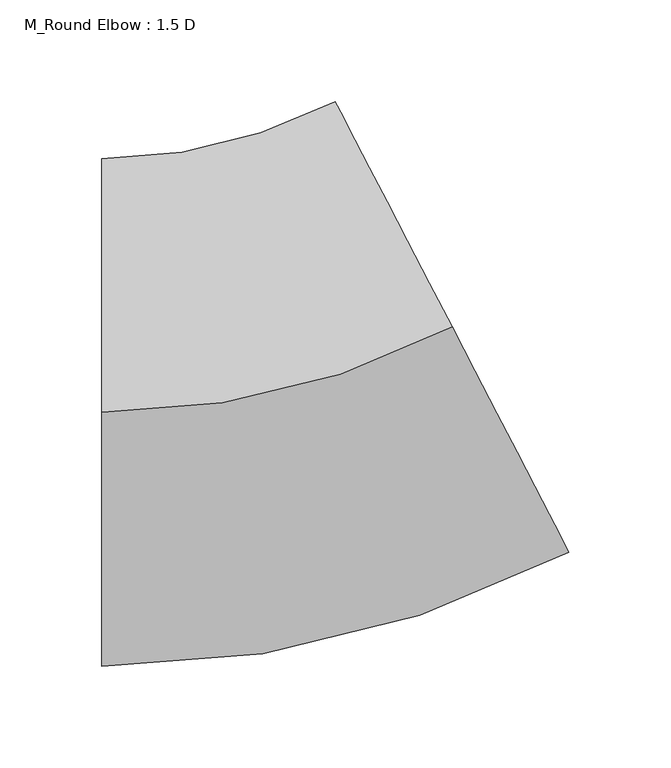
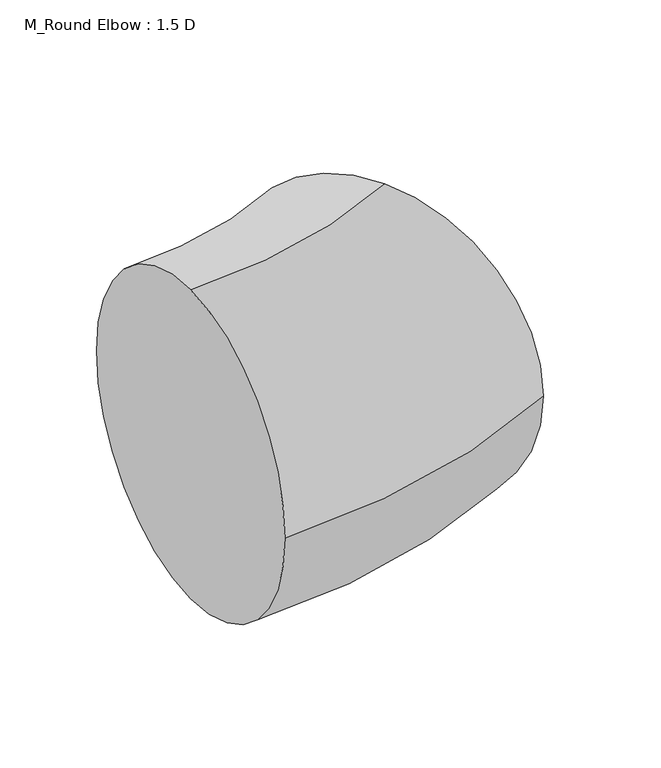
"""IFC4 building model written with IfcOpenShell, lengths in millimetres: duct fitting geometry, M_Round Elbow : 1.5 D."""

from ifc_helpers import new_model, si_unit, point, frame, origin, place, context, project, spatial, circle_curve, ellipse_curve, trimmed, source, transform, mapped, element, save
from ifc_brep_helpers import plane_surface, revolved_surface, advanced_brep


def m_round_elbow_1_5_d_63afd0f4(model_context):
    return source(origin(), model_context, "Body", "AdvancedBrep", [
        advanced_brep(
        [(-91.4095193, 0.0, 125.0), (-91.4095193, 125.0, 0.0), (-91.4095193, 0.0, -125.0), (-91.4095193, -125.0, 0.0), (81.1559691, 42.0643422, 125.0), (138.6777986, -68.9142103, 0.0), (81.1559691, 42.0643422, -125.0), (23.6341397, 153.0428948, 0.0)],
        [
            (0, 1, circle_curve(frame((-91.4095193, 0.0, 0.0), z_axis=(-1.0, 0.0, 0.0), x_axis=(0.0, 1.0, 0.0)), 125.0)),
            (1, 2, circle_curve(frame((-91.4095193, 0.0, 0.0), z_axis=(-1.0, 0.0, 0.0), x_axis=(0.0, 1.0, 0.0)), 125.0)),
            (2, 3, circle_curve(frame((-91.4095193, 0.0, 0.0), z_axis=(-1.0, 0.0, 0.0), x_axis=(0.0, 1.0, 0.0)), 125.0)),
            (3, 0, circle_curve(frame((-91.4095193, 0.0, 0.0), z_axis=(-1.0, 0.0, 0.0), x_axis=(0.0, 1.0, 0.0)), 125.0)),
            (4, 5, circle_curve(frame((81.1559691, 42.0643422, 0.0), z_axis=(0.8878284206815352, 0.46017463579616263, 0.0), x_axis=(-0.46017463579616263, 0.8878284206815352, 0.0)), 125.0)),
            (5, 6, circle_curve(frame((81.1559691, 42.0643422, 0.0), z_axis=(0.8878284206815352, 0.46017463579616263, 0.0), x_axis=(-0.46017463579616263, 0.8878284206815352, 0.0)), 125.0)),
            (6, 7, circle_curve(frame((81.1559691, 42.0643422, 0.0), z_axis=(0.8878284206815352, 0.46017463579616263, 0.0), x_axis=(-0.46017463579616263, 0.8878284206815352, 0.0)), 125.0)),
            (7, 4, circle_curve(frame((81.1559691, 42.0643422, 0.0), z_axis=(0.8878284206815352, 0.46017463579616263, 0.0), x_axis=(-0.46017463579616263, 0.8878284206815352, 0.0)), 125.0)),
            (7, 1, circle_curve(frame((-91.4095193, 375.0, 0.0), z_axis=(0.0, 0.0, -1.0), x_axis=(0.0, -1.0, 0.0)), 250.0)),
            (0, 4, circle_curve(frame((-91.4095193, 375.0, 125.0), z_axis=(0.0, 0.0, 1.0), x_axis=(0.0, -1.0, 0.0)), 375.0)),
            (6, 2, circle_curve(frame((-91.4095193, 375.0, -125.0), z_axis=(0.0, 0.0, -1.0), x_axis=(0.0, -1.0, 0.0)), 375.0)),
            (5, 3, circle_curve(frame((-91.4095193, 375.0, 0.0), z_axis=(0.0, 0.0, -1.0), x_axis=(0.0, -1.0, 0.0)), 500.0)),
        ],
        [
            plane_surface(frame((-91.4095193, 0.0, 0.0), z_axis=(-1.0, 0.0, 0.0), x_axis=(0.0, 0.0, 1.0))),
            plane_surface(frame((81.1559691, 42.0643422, 0.0), z_axis=(0.8878284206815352, 0.4601746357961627, 0.0), x_axis=(0.0, 0.0, 1.0))),
            revolved_surface(trimmed(ellipse_curve(frame((-91.4095193, 0.0, 0.0), z_axis=(-1.0, 0.0, 0.0), x_axis=(0.0, 1.0, 0.0)), 125.0, 125.0), [point((-91.4095193, 0.0, 125.0))], [point((-91.4095193, 125.0, 0.0))], True, "CARTESIAN"), (-91.4095193, 375.0, 0.0), (0.0, 0.0, 1.0)),
            revolved_surface(trimmed(ellipse_curve(frame((-91.4095193, 0.0, 0.0), z_axis=(-1.0, 0.0, 0.0), x_axis=(0.0, 1.0, 0.0)), 125.0, 125.0), [point((-91.4095193, 125.0, 0.0))], [point((-91.4095193, 0.0, -125.0))], True, "CARTESIAN"), (-91.4095193, 375.0, 0.0), (0.0, 0.0, 1.0)),
            revolved_surface(trimmed(ellipse_curve(frame((-91.4095193, 0.0, 0.0), z_axis=(-1.0, 0.0, 0.0), x_axis=(0.0, 1.0, 0.0)), 125.0, 125.0), [point((-91.4095193, 0.0, -125.0))], [point((-91.4095193, -125.0, 0.0))], True, "CARTESIAN"), (-91.4095193, 375.0, 0.0), (0.0, 0.0, 1.0)),
            revolved_surface(trimmed(ellipse_curve(frame((-91.4095193, 0.0, 0.0), z_axis=(-1.0, 0.0, 0.0), x_axis=(0.0, 1.0, 0.0)), 125.0, 125.0), [point((-91.4095193, -125.0, 0.0))], [point((-91.4095193, 0.0, 125.0))], True, "CARTESIAN"), (-91.4095193, 375.0, 0.0), (0.0, 0.0, 1.0)),
        ],
        [
            (0, [[1, 2, 3, 4]]),
            (1, [[5, 6, 7, 8]]),
            (2, [[9, -1, 10, -8]]),
            (3, [[11, -2, -9, -7]]),
            (4, [[12, -3, -11, -6]]),
            (5, [[-10, -4, -12, -5]]),
        ],
    ),
        advanced_brep(
        [(-91.4095193, 0.0, 125.0), (-91.4095193, 125.0, 0.0), (-91.4095193, 0.0, -125.0), (-91.4095193, -125.0, 0.0), (81.1559691, 42.0643422, 125.0), (138.6777986, -68.9142103, 0.0), (81.1559691, 42.0643422, -125.0), (23.6341397, 153.0428948, 0.0)],
        [
            (0, 1, circle_curve(frame((-91.4095193, 0.0, 0.0), z_axis=(-1.0, 0.0, 0.0), x_axis=(0.0, 1.0, 0.0)), 125.0)),
            (1, 2, circle_curve(frame((-91.4095193, 0.0, 0.0), z_axis=(-1.0, 0.0, 0.0), x_axis=(0.0, 1.0, 0.0)), 125.0)),
            (2, 3, circle_curve(frame((-91.4095193, 0.0, 0.0), z_axis=(-1.0, 0.0, 0.0), x_axis=(0.0, 1.0, 0.0)), 125.0)),
            (3, 0, circle_curve(frame((-91.4095193, 0.0, 0.0), z_axis=(-1.0, 0.0, 0.0), x_axis=(0.0, 1.0, 0.0)), 125.0)),
            (4, 5, circle_curve(frame((81.1559691, 42.0643422, 0.0), z_axis=(0.8878284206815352, 0.46017463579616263, 0.0), x_axis=(-0.46017463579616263, 0.8878284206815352, 0.0)), 125.0)),
            (5, 6, circle_curve(frame((81.1559691, 42.0643422, 0.0), z_axis=(0.8878284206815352, 0.46017463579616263, 0.0), x_axis=(-0.46017463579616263, 0.8878284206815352, 0.0)), 125.0)),
            (6, 7, circle_curve(frame((81.1559691, 42.0643422, 0.0), z_axis=(0.8878284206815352, 0.46017463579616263, 0.0), x_axis=(-0.46017463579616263, 0.8878284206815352, 0.0)), 125.0)),
            (7, 4, circle_curve(frame((81.1559691, 42.0643422, 0.0), z_axis=(0.8878284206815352, 0.46017463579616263, 0.0), x_axis=(-0.46017463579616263, 0.8878284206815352, 0.0)), 125.0)),
            (7, 1, circle_curve(frame((-91.4095193, 375.0, 0.0), z_axis=(0.0, 0.0, -1.0), x_axis=(0.0, -1.0, 0.0)), 250.0)),
            (0, 4, circle_curve(frame((-91.4095193, 375.0, 125.0), z_axis=(0.0, 0.0, 1.0), x_axis=(0.0, -1.0, 0.0)), 375.0)),
            (6, 2, circle_curve(frame((-91.4095193, 375.0, -125.0), z_axis=(0.0, 0.0, -1.0), x_axis=(0.0, -1.0, 0.0)), 375.0)),
            (5, 3, circle_curve(frame((-91.4095193, 375.0, 0.0), z_axis=(0.0, 0.0, -1.0), x_axis=(0.0, -1.0, 0.0)), 500.0)),
        ],
        [
            plane_surface(frame((-91.4095193, 0.0, 0.0), z_axis=(-1.0, 0.0, 0.0), x_axis=(0.0, 0.0, 1.0))),
            plane_surface(frame((81.1559691, 42.0643422, 0.0), z_axis=(0.8878284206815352, 0.4601746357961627, 0.0), x_axis=(0.0, 0.0, 1.0))),
            revolved_surface(trimmed(ellipse_curve(frame((-91.4095193, 0.0, 0.0), z_axis=(-1.0, 0.0, 0.0), x_axis=(0.0, 1.0, 0.0)), 125.0, 125.0), [point((-91.4095193, 0.0, 125.0))], [point((-91.4095193, 125.0, 0.0))], True, "CARTESIAN"), (-91.4095193, 375.0, 0.0), (0.0, 0.0, 1.0)),
            revolved_surface(trimmed(ellipse_curve(frame((-91.4095193, 0.0, 0.0), z_axis=(-1.0, 0.0, 0.0), x_axis=(0.0, 1.0, 0.0)), 125.0, 125.0), [point((-91.4095193, 125.0, 0.0))], [point((-91.4095193, 0.0, -125.0))], True, "CARTESIAN"), (-91.4095193, 375.0, 0.0), (0.0, 0.0, 1.0)),
            revolved_surface(trimmed(ellipse_curve(frame((-91.4095193, 0.0, 0.0), z_axis=(-1.0, 0.0, 0.0), x_axis=(0.0, 1.0, 0.0)), 125.0, 125.0), [point((-91.4095193, 0.0, -125.0))], [point((-91.4095193, -125.0, 0.0))], True, "CARTESIAN"), (-91.4095193, 375.0, 0.0), (0.0, 0.0, 1.0)),
            revolved_surface(trimmed(ellipse_curve(frame((-91.4095193, 0.0, 0.0), z_axis=(-1.0, 0.0, 0.0), x_axis=(0.0, 1.0, 0.0)), 125.0, 125.0), [point((-91.4095193, -125.0, 0.0))], [point((-91.4095193, 0.0, 125.0))], True, "CARTESIAN"), (-91.4095193, 375.0, 0.0), (0.0, 0.0, 1.0)),
        ],
        [
            (0, [[1, 2, 3, 4]]),
            (1, [[5, 6, 7, 8]]),
            (2, [[9, -1, 10, -8]]),
            (3, [[11, -2, -9, -7]]),
            (4, [[12, -3, -11, -6]]),
            (5, [[-10, -4, -12, -5]]),
        ],
    ),
        advanced_brep(
        [(-91.4095193, 0.0, 125.0), (-91.4095193, 125.0, 0.0), (-91.4095193, 0.0, -125.0), (-91.4095193, -125.0, 0.0), (81.1559691, 42.0643422, 125.0), (138.6777986, -68.9142103, 0.0), (81.1559691, 42.0643422, -125.0), (23.6341397, 153.0428948, 0.0)],
        [
            (0, 1, circle_curve(frame((-91.4095193, 0.0, 0.0), z_axis=(-1.0, 0.0, 0.0), x_axis=(0.0, 1.0, 0.0)), 125.0)),
            (1, 2, circle_curve(frame((-91.4095193, 0.0, 0.0), z_axis=(-1.0, 0.0, 0.0), x_axis=(0.0, 1.0, 0.0)), 125.0)),
            (2, 3, circle_curve(frame((-91.4095193, 0.0, 0.0), z_axis=(-1.0, 0.0, 0.0), x_axis=(0.0, 1.0, 0.0)), 125.0)),
            (3, 0, circle_curve(frame((-91.4095193, 0.0, 0.0), z_axis=(-1.0, 0.0, 0.0), x_axis=(0.0, 1.0, 0.0)), 125.0)),
            (4, 5, circle_curve(frame((81.1559691, 42.0643422, 0.0), z_axis=(0.8878284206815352, 0.46017463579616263, 0.0), x_axis=(-0.46017463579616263, 0.8878284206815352, 0.0)), 125.0)),
            (5, 6, circle_curve(frame((81.1559691, 42.0643422, 0.0), z_axis=(0.8878284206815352, 0.46017463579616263, 0.0), x_axis=(-0.46017463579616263, 0.8878284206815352, 0.0)), 125.0)),
            (6, 7, circle_curve(frame((81.1559691, 42.0643422, 0.0), z_axis=(0.8878284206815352, 0.46017463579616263, 0.0), x_axis=(-0.46017463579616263, 0.8878284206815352, 0.0)), 125.0)),
            (7, 4, circle_curve(frame((81.1559691, 42.0643422, 0.0), z_axis=(0.8878284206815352, 0.46017463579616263, 0.0), x_axis=(-0.46017463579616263, 0.8878284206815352, 0.0)), 125.0)),
            (7, 1, circle_curve(frame((-91.4095193, 375.0, 0.0), z_axis=(0.0, 0.0, -1.0), x_axis=(0.0, -1.0, 0.0)), 250.0)),
            (0, 4, circle_curve(frame((-91.4095193, 375.0, 125.0), z_axis=(0.0, 0.0, 1.0), x_axis=(0.0, -1.0, 0.0)), 375.0)),
            (6, 2, circle_curve(frame((-91.4095193, 375.0, -125.0), z_axis=(0.0, 0.0, -1.0), x_axis=(0.0, -1.0, 0.0)), 375.0)),
            (5, 3, circle_curve(frame((-91.4095193, 375.0, 0.0), z_axis=(0.0, 0.0, -1.0), x_axis=(0.0, -1.0, 0.0)), 500.0)),
        ],
        [
            plane_surface(frame((-91.4095193, 0.0, 0.0), z_axis=(-1.0, 0.0, 0.0), x_axis=(0.0, 0.0, 1.0))),
            plane_surface(frame((81.1559691, 42.0643422, 0.0), z_axis=(0.8878284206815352, 0.4601746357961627, 0.0), x_axis=(0.0, 0.0, 1.0))),
            revolved_surface(trimmed(ellipse_curve(frame((-91.4095193, 0.0, 0.0), z_axis=(-1.0, 0.0, 0.0), x_axis=(0.0, 1.0, 0.0)), 125.0, 125.0), [point((-91.4095193, 0.0, 125.0))], [point((-91.4095193, 125.0, 0.0))], True, "CARTESIAN"), (-91.4095193, 375.0, 0.0), (0.0, 0.0, 1.0)),
            revolved_surface(trimmed(ellipse_curve(frame((-91.4095193, 0.0, 0.0), z_axis=(-1.0, 0.0, 0.0), x_axis=(0.0, 1.0, 0.0)), 125.0, 125.0), [point((-91.4095193, 125.0, 0.0))], [point((-91.4095193, 0.0, -125.0))], True, "CARTESIAN"), (-91.4095193, 375.0, 0.0), (0.0, 0.0, 1.0)),
            revolved_surface(trimmed(ellipse_curve(frame((-91.4095193, 0.0, 0.0), z_axis=(-1.0, 0.0, 0.0), x_axis=(0.0, 1.0, 0.0)), 125.0, 125.0), [point((-91.4095193, 0.0, -125.0))], [point((-91.4095193, -125.0, 0.0))], True, "CARTESIAN"), (-91.4095193, 375.0, 0.0), (0.0, 0.0, 1.0)),
            revolved_surface(trimmed(ellipse_curve(frame((-91.4095193, 0.0, 0.0), z_axis=(-1.0, 0.0, 0.0), x_axis=(0.0, 1.0, 0.0)), 125.0, 125.0), [point((-91.4095193, -125.0, 0.0))], [point((-91.4095193, 0.0, 125.0))], True, "CARTESIAN"), (-91.4095193, 375.0, 0.0), (0.0, 0.0, 1.0)),
        ],
        [
            (0, [[1, 2, 3, 4]]),
            (1, [[5, 6, 7, 8]]),
            (2, [[9, -1, 10, -8]]),
            (3, [[11, -2, -9, -7]]),
            (4, [[12, -3, -11, -6]]),
            (5, [[-10, -4, -12, -5]]),
        ],
    ),
    ])


if __name__ == "__main__":
    model = new_model("IFC4")
    model_context = context("Model", 3, world=origin())
    ifc_project = project(units=[si_unit("LENGTHUNIT", "METRE", prefix="MILLI")], contexts=[model_context])
    site = spatial("IfcSite", under=ifc_project)
    building = spatial("IfcBuilding", under=site)
    placement = place(None, origin())
    m_round_elbow_1_5_d_shape = m_round_elbow_1_5_d_63afd0f4(model_context)
    element("IfcDuctFitting", 1, ObjectType="M_Round Elbow : 1.5 D", at=placement, inside=building, context=model_context, shape_type="MappedRepresentation", body=[
        mapped(m_round_elbow_1_5_d_shape, transform((0.0, 0.0, 0.0), x_axis=(1.0, 0.0, 0.0), y_axis=(0.0, 1.0, 0.0), z_axis=(0.0, 0.0, 1.0))),
    ])
    save(model, "model.ifc")
